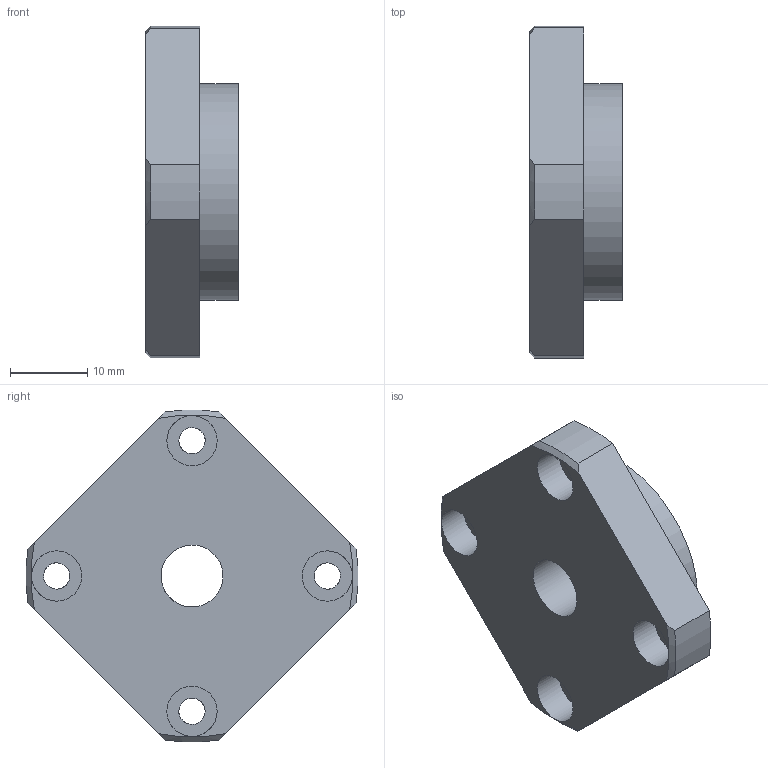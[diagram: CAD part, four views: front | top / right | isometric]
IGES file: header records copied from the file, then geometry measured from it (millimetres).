
Global section: file name: Опора фланцевая FF10 01.00; native system: Autodesk Inventor 2016; preprocessor: unknown; author: TraceParts; organization: TraceParts S.A.; date: 20170127.115754; units: millimetre
Bounding box: 12 x 42.93 x 42.93 mm (x, y, z)
Volume: 8612.2 mm3; surface area: 4475.6 mm2
Topology: 1 solids, 1 shells, 31 faces, 76 edges, 53 vertices
Faces by surface type: bspline 31
